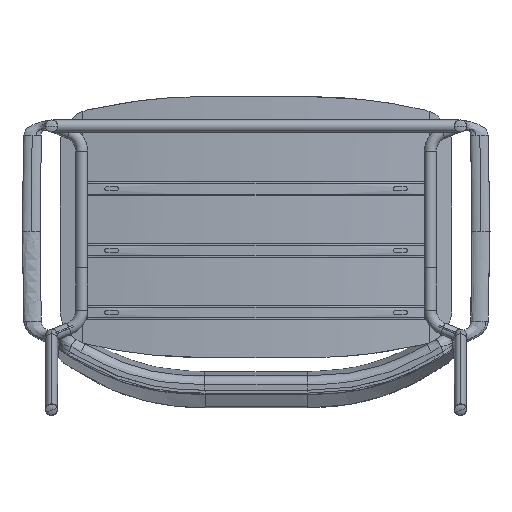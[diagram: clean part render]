
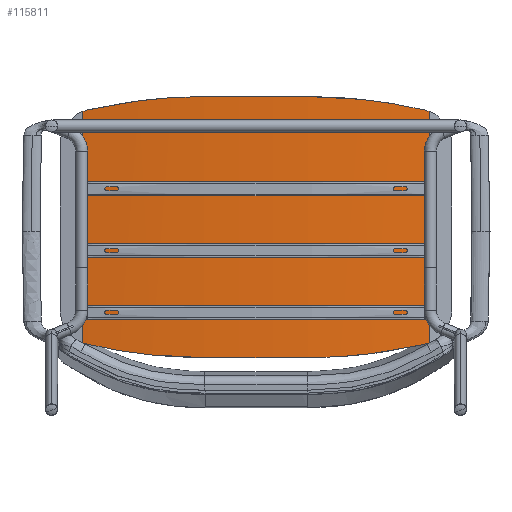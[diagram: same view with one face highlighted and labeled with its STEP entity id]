
A CAD part, front view. The second image highlights one B-rep face of the part: STEP entity #115811.
In plain terms, the highlighted cylindrical face has radius 2540.98 mm (diameter 5081.97 mm), a partial arc.
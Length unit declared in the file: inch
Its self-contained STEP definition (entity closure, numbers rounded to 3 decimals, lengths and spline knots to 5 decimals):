
#635 = VERTEX_POINT ( 'NONE', #35410 ) ;
#1465 = CIRCLE ( 'NONE', #103183, 100.03871 ) ;
#1685 = DIRECTION ( 'NONE',  ( 1., 0., 0. ) ) ;
#3255 = CARTESIAN_POINT ( 'NONE',  ( 3.7505, 15.69677, 12.45667 ) ) ;
#4187 = B_SPLINE_CURVE_WITH_KNOTS ( 'NONE', 3,
 ( #26765, #113382, #104455, #24904 ),
 .UNSPECIFIED., .F., .F.,
 ( 4, 4 ),
 ( 0., 1. ),
 .UNSPECIFIED. ) ;
#5934 = B_SPLINE_CURVE_WITH_KNOTS ( 'NONE', 3,
 ( #63385, #43631, #73556, #102234 ),
 .UNSPECIFIED., .F., .F.,
 ( 4, 4 ),
 ( 0., 1. ),
 .UNSPECIFIED. ) ;
#6576 = CARTESIAN_POINT ( 'NONE',  ( 3.7505, 15.69677, -6.54333 ) ) ;
#9343 = CYLINDRICAL_SURFACE ( 'NONE', #28135, 100.03871 ) ;
#9790 = ORIENTED_EDGE ( 'NONE', *, *, #50820, .F. ) ;
#9960 = CARTESIAN_POINT ( 'NONE',  ( -12.47605, 16.40739, -5.50558 ) ) ;
#10294 = ORIENTED_EDGE ( 'NONE', *, *, #58037, .F. ) ;
#14490 = CARTESIAN_POINT ( 'NONE',  ( -12.2466, 16.37888, -5.56736 ) ) ;
#20478 = LINE ( 'NONE', #42089, #24093 ) ;
#23003 = DIRECTION ( 'NONE',  ( 0., 0., 1. ) ) ;
#24093 = VECTOR ( 'NONE', #23003, 39.37008 ) ;
#24904 = CARTESIAN_POINT ( 'NONE',  ( -3.7505, 15.69677, 12.45667 ) ) ;
#25364 = CARTESIAN_POINT ( 'NONE',  ( 12.2466, 16.37888, -5.56736 ) ) ;
#25377 = EDGE_CURVE ( 'NONE', #46498, #45963, #104847, .T. ) ;
#26765 = CARTESIAN_POINT ( 'NONE',  ( -12.2466, 16.37888, 11.4807 ) ) ;
#28135 = AXIS2_PLACEMENT_3D ( 'NONE', #87021, #116309, #1685 ) ;
#28286 = CARTESIAN_POINT ( 'NONE',  ( 12.2466, 16.37888, 11.4807 ) ) ;
#28302 = B_SPLINE_CURVE_WITH_KNOTS ( 'NONE', 3,
 ( #55756, #36018, #93989, #122010 ),
 .UNSPECIFIED., .F., .F.,
 ( 4, 4 ),
 ( 0., 1. ),
 .UNSPECIFIED. ) ;
#29054 = LINE ( 'NONE', #95952, #78503 ) ;
#29737 = CIRCLE ( 'NONE', #113118, 100.03871 ) ;
#30372 = VERTEX_POINT ( 'NONE', #63909 ) ;
#31257 = CARTESIAN_POINT ( 'NONE',  ( 12.2466, 16.37888, 11.4807 ) ) ;
#31756 = DIRECTION ( 'NONE',  ( 0., 1., 0. ) ) ;
#32387 = ORIENTED_EDGE ( 'NONE', *, *, #95903, .F. ) ;
#32525 = CARTESIAN_POINT ( 'NONE',  ( 9.47532, 16.03705, 12.1259 ) ) ;
#35410 = CARTESIAN_POINT ( 'NONE',  ( -3.7505, 15.69677, 12.45667 ) ) ;
#36018 = CARTESIAN_POINT ( 'NONE',  ( 12.36262, 16.39319, 11.45369 ) ) ;
#36346 = ORIENTED_EDGE ( 'NONE', *, *, #108624, .F. ) ;
#36400 = CARTESIAN_POINT ( 'NONE',  ( -12.58689, 16.42144, 11.37639 ) ) ;
#37216 = B_SPLINE_CURVE_WITH_KNOTS ( 'NONE', 3,
 ( #36400, #103286, #56126, #44695 ),
 .UNSPECIFIED., .F., .F.,
 ( 4, 4 ),
 ( 0., 1. ),
 .UNSPECIFIED. ) ;
#39359 = EDGE_CURVE ( 'NONE', #30372, #46498, #29054, .T. ) ;
#41879 = VERTEX_POINT ( 'NONE', #117657 ) ;
#42089 = CARTESIAN_POINT ( 'NONE',  ( -12.58689, 16.42144, 5.25 ) ) ;
#43131 = CARTESIAN_POINT ( 'NONE',  ( -3.7505, 15.69677, -6.54333 ) ) ;
#43631 = CARTESIAN_POINT ( 'NONE',  ( 9.47144, 16.03657, -6.21347 ) ) ;
#43824 = CARTESIAN_POINT ( 'NONE',  ( 12.3626, 16.39319, -5.54036 ) ) ;
#44695 = CARTESIAN_POINT ( 'NONE',  ( -12.2466, 16.37888, 11.4807 ) ) ;
#45963 = VERTEX_POINT ( 'NONE', #60679 ) ;
#46498 = VERTEX_POINT ( 'NONE', #83545 ) ;
#47074 = EDGE_CURVE ( 'NONE', #119079, #104228, #37216, .T. ) ;
#48172 = FACE_OUTER_BOUND ( 'NONE', #61959, .T. ) ;
#50820 = EDGE_CURVE ( 'NONE', #87969, #60060, #52331, .T. ) ;
#51496 = VERTEX_POINT ( 'NONE', #28286 ) ;
#52331 = B_SPLINE_CURVE_WITH_KNOTS ( 'NONE', 3,
 ( #87637, #76836, #9960, #125833 ),
 .UNSPECIFIED., .F., .F.,
 ( 4, 4 ),
 ( 0., 1. ),
 .UNSPECIFIED. ) ;
#53030 = CARTESIAN_POINT ( 'NONE',  ( -12.2466, 16.37888, -5.56736 ) ) ;
#55036 = ORIENTED_EDGE ( 'NONE', *, *, #118820, .F. ) ;
#55756 = CARTESIAN_POINT ( 'NONE',  ( 12.2466, 16.37888, 11.4807 ) ) ;
#56126 = CARTESIAN_POINT ( 'NONE',  ( -12.3626, 16.39319, 11.45369 ) ) ;
#57240 = ORIENTED_EDGE ( 'NONE', *, *, #25377, .F. ) ;
#58037 = EDGE_CURVE ( 'NONE', #60060, #119079, #20478, .T. ) ;
#58462 = ORIENTED_EDGE ( 'NONE', *, *, #99435, .F. ) ;
#60060 = VERTEX_POINT ( 'NONE', #103042 ) ;
#60679 = CARTESIAN_POINT ( 'NONE',  ( 12.2466, 16.37888, -5.56736 ) ) ;
#61959 = EDGE_LOOP ( 'NONE', ( #58462, #99394, #10294, #9790, #94911, #64759, #36346, #57240, #98100, #100025, #55036, #32387 ) ) ;
#62449 = CARTESIAN_POINT ( 'NONE',  ( 6.61755, 15.80433, 12.45667 ) ) ;
#63385 = CARTESIAN_POINT ( 'NONE',  ( 12.2466, 16.37888, -5.56736 ) ) ;
#63407 = EDGE_CURVE ( 'NONE', #98126, #41879, #29737, .T. ) ;
#63909 = CARTESIAN_POINT ( 'NONE',  ( 12.58689, 16.42144, 11.3764 ) ) ;
#64759 = ORIENTED_EDGE ( 'NONE', *, *, #63407, .F. ) ;
#68080 = CARTESIAN_POINT ( 'NONE',  ( 0., 115.66515, 12.45667 ) ) ;
#68710 = DIRECTION ( 'NONE',  ( 0., 0., 1. ) ) ;
#69100 = EDGE_CURVE ( 'NONE', #51496, #30372, #28302, .T. ) ;
#69346 = DIRECTION ( 'NONE',  ( 0., 0., -1. ) ) ;
#69494 = B_SPLINE_CURVE_WITH_KNOTS ( 'NONE', 3,
 ( #120382, #62449, #32525, #31257 ),
 .UNSPECIFIED., .F., .F.,
 ( 4, 4 ),
 ( 0., 1. ),
 .UNSPECIFIED. ) ;
#73556 = CARTESIAN_POINT ( 'NONE',  ( 6.61366, 15.80419, -6.54333 ) ) ;
#73757 = CARTESIAN_POINT ( 'NONE',  ( 12.58689, 16.42144, -5.46305 ) ) ;
#76836 = CARTESIAN_POINT ( 'NONE',  ( -12.36262, 16.39319, -5.54035 ) ) ;
#78503 = VECTOR ( 'NONE', #106119, 39.37008 ) ;
#81799 = B_SPLINE_CURVE_WITH_KNOTS ( 'NONE', 3,
 ( #43131, #101737, #81981, #14490 ),
 .UNSPECIFIED., .F., .F.,
 ( 4, 4 ),
 ( 0., 1. ),
 .UNSPECIFIED. ) ;
#81981 = CARTESIAN_POINT ( 'NONE',  ( -9.47532, 16.03705, -6.21257 ) ) ;
#83545 = CARTESIAN_POINT ( 'NONE',  ( 12.58689, 16.42144, -5.46305 ) ) ;
#87021 = CARTESIAN_POINT ( 'NONE',  ( 0., 115.66515, 5.25 ) ) ;
#87637 = CARTESIAN_POINT ( 'NONE',  ( -12.2466, 16.37888, -5.56736 ) ) ;
#87969 = VERTEX_POINT ( 'NONE', #53030 ) ;
#89085 = CARTESIAN_POINT ( 'NONE',  ( 0., 115.66515, -6.54333 ) ) ;
#93989 = CARTESIAN_POINT ( 'NONE',  ( 12.47605, 16.40739, 11.41892 ) ) ;
#94911 = ORIENTED_EDGE ( 'NONE', *, *, #104779, .F. ) ;
#95903 = EDGE_CURVE ( 'NONE', #635, #118534, #1465, .T. ) ;
#95952 = CARTESIAN_POINT ( 'NONE',  ( 12.58689, 16.42144, 5.25 ) ) ;
#98100 = ORIENTED_EDGE ( 'NONE', *, *, #39359, .F. ) ;
#98126 = VERTEX_POINT ( 'NONE', #6576 ) ;
#99394 = ORIENTED_EDGE ( 'NONE', *, *, #47074, .F. ) ;
#99435 = EDGE_CURVE ( 'NONE', #104228, #635, #4187, .T. ) ;
#100025 = ORIENTED_EDGE ( 'NONE', *, *, #69100, .F. ) ;
#101737 = CARTESIAN_POINT ( 'NONE',  ( -6.61755, 15.80433, -6.54333 ) ) ;
#102234 = CARTESIAN_POINT ( 'NONE',  ( 3.7505, 15.69677, -6.54333 ) ) ;
#103042 = CARTESIAN_POINT ( 'NONE',  ( -12.58689, 16.42144, -5.46306 ) ) ;
#103171 = CARTESIAN_POINT ( 'NONE',  ( -12.58689, 16.42144, 11.37639 ) ) ;
#103183 = AXIS2_PLACEMENT_3D ( 'NONE', #68080, #68710, #116472 ) ;
#103286 = CARTESIAN_POINT ( 'NONE',  ( -12.47603, 16.40738, 11.41893 ) ) ;
#104228 = VERTEX_POINT ( 'NONE', #120811 ) ;
#104455 = CARTESIAN_POINT ( 'NONE',  ( -6.61366, 15.80419, 12.45667 ) ) ;
#104779 = EDGE_CURVE ( 'NONE', #41879, #87969, #81799, .T. ) ;
#104847 = B_SPLINE_CURVE_WITH_KNOTS ( 'NONE', 3,
 ( #73757, #120883, #43824, #25364 ),
 .UNSPECIFIED., .F., .F.,
 ( 4, 4 ),
 ( 0., 1. ),
 .UNSPECIFIED. ) ;
#106119 = DIRECTION ( 'NONE',  ( 0., 0., -1. ) ) ;
#108624 = EDGE_CURVE ( 'NONE', #45963, #98126, #5934, .T. ) ;
#113118 = AXIS2_PLACEMENT_3D ( 'NONE', #89085, #69346, #31756 ) ;
#113382 = CARTESIAN_POINT ( 'NONE',  ( -9.47144, 16.03657, 12.12681 ) ) ;
#115811 = ADVANCED_FACE ( 'NONE', ( #48172 ), #9343, .T. ) ;
#116309 = DIRECTION ( 'NONE',  ( 0., 0., 1. ) ) ;
#116472 = DIRECTION ( 'NONE',  ( 0., -1., 0. ) ) ;
#117657 = CARTESIAN_POINT ( 'NONE',  ( -3.7505, 15.69677, -6.54333 ) ) ;
#118534 = VERTEX_POINT ( 'NONE', #3255 ) ;
#118820 = EDGE_CURVE ( 'NONE', #118534, #51496, #69494, .T. ) ;
#119079 = VERTEX_POINT ( 'NONE', #103171 ) ;
#120382 = CARTESIAN_POINT ( 'NONE',  ( 3.7505, 15.69677, 12.45667 ) ) ;
#120811 = CARTESIAN_POINT ( 'NONE',  ( -12.2466, 16.37888, 11.4807 ) ) ;
#120883 = CARTESIAN_POINT ( 'NONE',  ( 12.47603, 16.40738, -5.50559 ) ) ;
#122010 = CARTESIAN_POINT ( 'NONE',  ( 12.58689, 16.42144, 11.3764 ) ) ;
#125833 = CARTESIAN_POINT ( 'NONE',  ( -12.58689, 16.42144, -5.46306 ) ) ;
